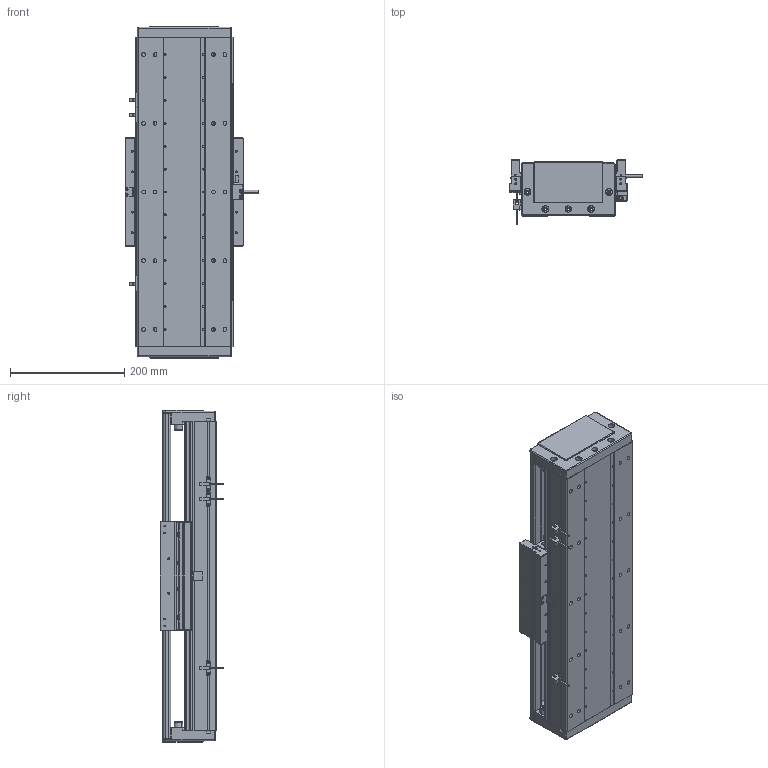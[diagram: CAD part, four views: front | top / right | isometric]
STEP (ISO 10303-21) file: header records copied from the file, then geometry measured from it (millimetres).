
FILE_DESCRIPTION (( 'STEP AP203' ), '1' );
FILE_NAME ('DA-C165-C2-T300-C010-0.2 直线电机.STEP', '2023-05-11T07:28:38', ( '微软用户' ), ( '微软中国' ), 'SwSTEP 2.0', 'SolidWorks 2019', '' );
FILE_SCHEMA (( 'CONFIG_CONTROL_DESIGN' ));
Length unit declared in the file: millimetre
Products named in the file (15): 葩璃 PM-T45^DA-C165-C2-T-C010-0.2-N 眻盄萇儂; 复件 DMA-010-0.2 读数头^DA-C165-C2-T-C010-0.2-N 直线电机; IU-CU165-L-00 菁釱_L540; 复件 CKM02-W075-C1C2-TP-3.0 一体电机-C2^DA-C165-C2-T-C010-0.2-N 直线电机; 复件 DA95-HXJ-00 缓冲橡胶^DA-C165-C2-T-C010-0.2-N 直线电机; 复件 XD-U-02L 磁栅尺^DA-C165-C2-T-C010-0.2-N 直线电机_T; IU-CU165-L 菁釱絳寢; 葩璃 DA95-GT-T-00^IU-CU165-L 菁釱絳寢_T; 珨极趙賑雄怢啣wf-C2; 复件 DA165-GYP-00 光电感应片^DA-C165-C2-T-C010-0.2-N 直线电机; 葩璃 CKM01-W075-TRL^DA-C165-C2-T-C010-0.2-N 眻盄萇儂; 复件 DA165-DG-H-N-00 端盖^DA-C165-C2-T-C010-0.2-N 直线电机; 复件 DA165-T-002-00 盖板^DA-C165-C2-T-C010-0.2-N 直线电机_0840-002-00; DA-C165-C2-T300-C010-0.2 眻盄萇儂; 复件 六角薄螺母 M3^DA-C165-C2-T-C010-0.2-N 直线电机_GB_FASTENER_NUT_STNAB M3-C
Assembly tree (28 placements, depth 3):
  DA-C165-C2-T300-C010-0.2 眻盄萇儂
    IU-CU165-L 菁釱絳寢
      IU-CU165-L-00 菁釱_L540
      葩璃 DA95-GT-T-00^IU-CU165-L 菁釱絳寢_T  x4
    复件 DA165-DG-H-N-00 端盖^DA-C165-C2-T-C010-0.2-N 直线电机  x2
    复件 DA95-HXJ-00 缓冲橡胶^DA-C165-C2-T-C010-0.2-N 直线电机  x4
    复件 DA165-T-002-00 盖板^DA-C165-C2-T-C010-0.2-N 直线电机_0840-002-00
    复件 XD-U-02L 磁栅尺^DA-C165-C2-T-C010-0.2-N 直线电机_T
    葩璃 PM-T45^DA-C165-C2-T-C010-0.2-N 眻盄萇儂  x3
    葩璃 CKM01-W075-TRL^DA-C165-C2-T-C010-0.2-N 眻盄萇儂
    复件 DA165-GYP-00 光电感应片^DA-C165-C2-T-C010-0.2-N 直线电机
    复件 DMA-010-0.2 读数头^DA-C165-C2-T-C010-0.2-N 直线电机
    复件 CKM02-W075-C1C2-TP-3.0 一体电机-C2^DA-C165-C2-T-C010-0.2-N 直线电机
    复件 六角薄螺母 M3^DA-C165-C2-T-C010-0.2-N 直线电机_GB_FASTENER_NUT_STNAB M3-C  x6
    珨极趙賑雄怢啣wf-C2
Bounding box: 233 x 111.45 x 580 mm (x, y, z)
Volume: 5140381.1 mm3; surface area: 1310569.5 mm2
Topology: 66 solids, 66 shells, 2844 faces, 7566 edges, 4711 vertices
Faces by surface type: cylinder 1335, plane 1045, cone 406, torus 54, sphere 4
Entity records: 80989 total; most frequent: CARTESIAN_POINT 17412, DIRECTION 13228, ORIENTED_EDGE 12606, EDGE_CURVE 6303, AXIS2_PLACEMENT_3D 4931, VERTEX_POINT 4047, LINE 3366, VECTOR 3366
